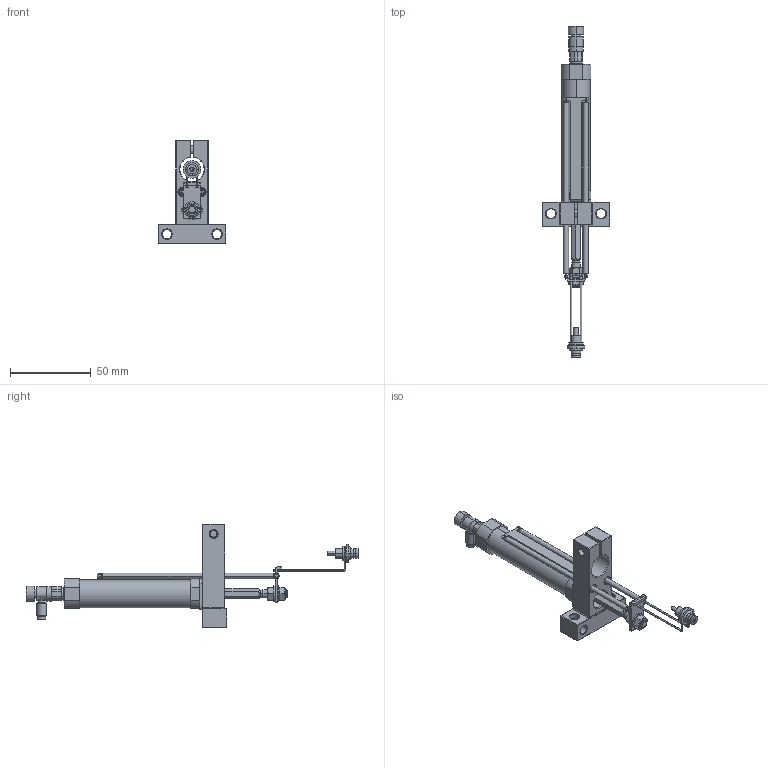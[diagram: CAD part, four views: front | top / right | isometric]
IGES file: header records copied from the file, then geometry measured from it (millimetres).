
Start section: Elysium IGES Interface
Global section: file name: 66HC:\Users\u158450\Desktop\エアリフタ検討\Air_Lifting_Unit(25mm).igs; native system: Creo Elements/Direct Modeling 18.1I  13-Aug-2016; preprocessor: Creo Element/Direct IGES_3D V2.2; author: Unknown; organization: Unknown; date: 20201026.144717; units: millimetre
Bounding box: 42 x 205.3 x 64 mm (x, y, z)
Volume: 38358.6 mm3; surface area: 23785.4 mm2
Topology: 6 solids, 7 shells, 448 faces, 1076 edges, 673 vertices
Faces by surface type: bspline 448
